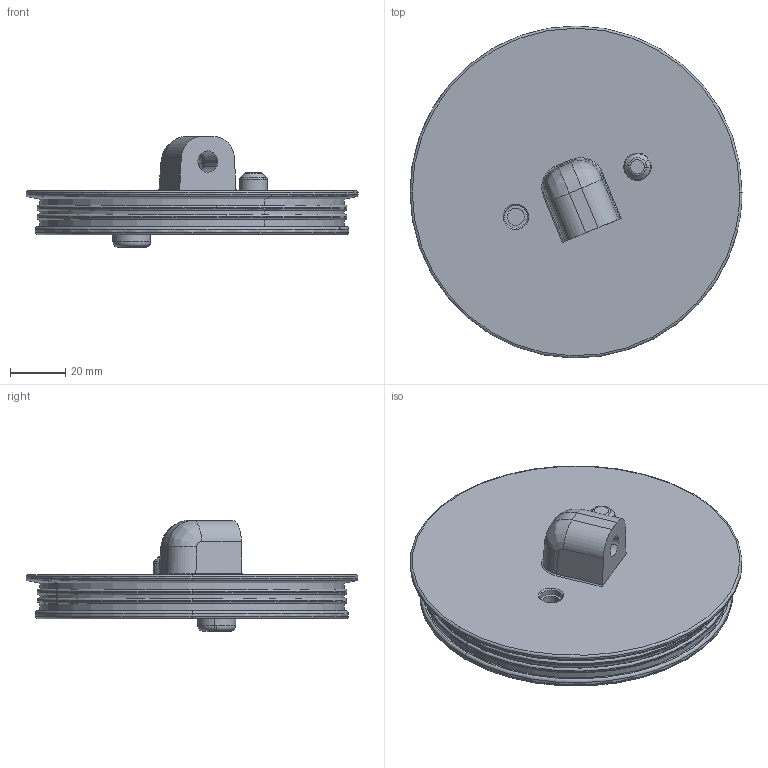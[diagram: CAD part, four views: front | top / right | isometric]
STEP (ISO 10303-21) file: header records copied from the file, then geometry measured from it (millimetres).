
FILE_DESCRIPTION(('CATIA V5 STEP Exchange'),'2;1');
FILE_NAME('C:\Users\Administrator\Desktop\SLT0010278-空气弹簧上端盖.stp','2021-04-28T05:44:12+00:00',('none'),('none'),'CATIA Version 5 Release 20 GA (IN-10)','CATIA V5 STEP AP214','none');
FILE_SCHEMA(('AUTOMOTIVE_DESIGN { 1 0 10303 214 1 1 1 1 }'));
Length unit declared in the file: millimetre
Products named in the file (1): SLT0010278-方案2
Bounding box: 120 x 119.99 x 40 mm (x, y, z)
Volume: 88419.3 mm3; surface area: 39507.3 mm2
Topology: 1 solids, 1 shells, 253 faces, 700 edges, 459 vertices
Faces by surface type: plane 60, torus 58, cylinder 53, cone 50, bspline 32
Entity records: 10134 total; most frequent: CARTESIAN_POINT 4385, ORIENTED_EDGE 1400, DIRECTION 823, EDGE_CURVE 700, AXIS2_PLACEMENT_3D 491, VERTEX_POINT 459, CIRCLE 307, EDGE_LOOP 265
